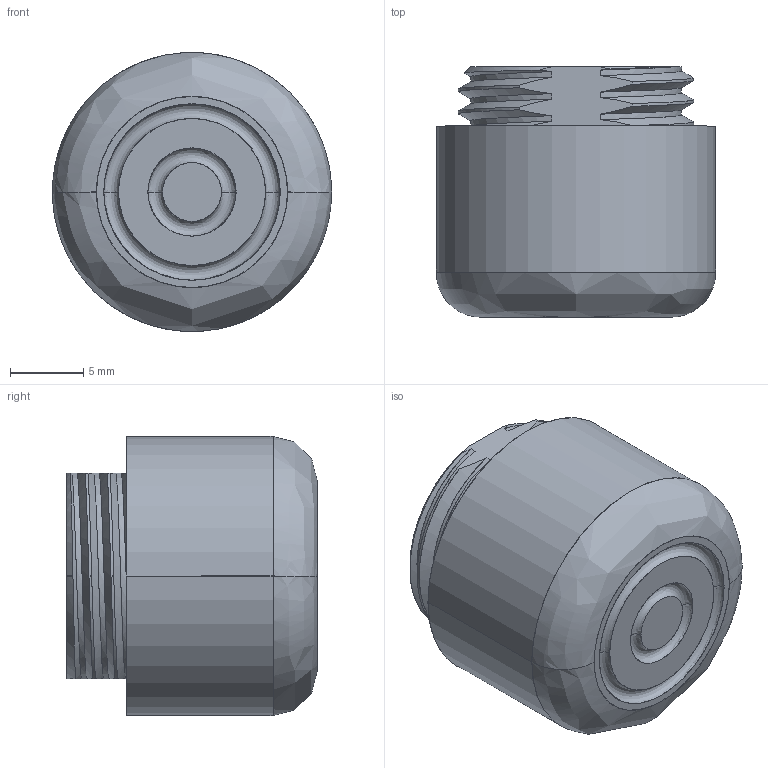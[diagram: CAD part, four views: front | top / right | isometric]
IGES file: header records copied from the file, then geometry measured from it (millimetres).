
Start section: SolidWorks IGES file using analytic representation for surfaces
Bounding box: 19 x 17.03 x 19 mm (x, y, z)
Surface area: 3461.3 mm2 (no closed solid volume)
Topology: 0 solids, 0 shells, 233 faces, 2602 edges, 2588 vertices
Faces by surface type: bspline 131, revolution 102
